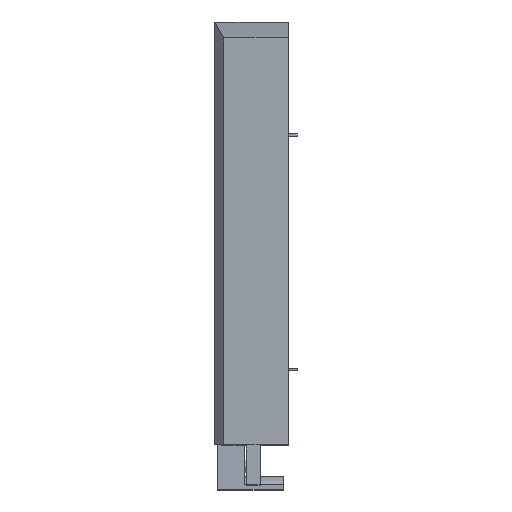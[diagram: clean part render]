
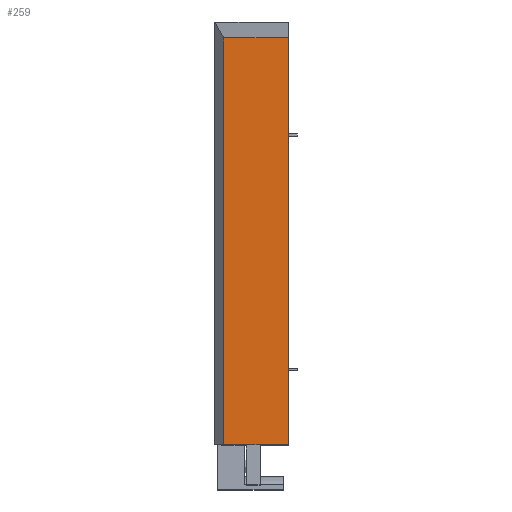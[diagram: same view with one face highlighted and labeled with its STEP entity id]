
A CAD part, top view. The second image highlights one B-rep face of the part: STEP entity #259.
In plain terms, the highlighted planar face has unit normal (0, 0, 1).
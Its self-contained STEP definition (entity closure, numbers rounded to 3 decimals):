
#82 = EDGE_CURVE ( 'NONE', #860, #1110, #753, .T. ) ;
#259 = ADVANCED_FACE ( 'NONE', ( #3959 ), #3242, .F. ) ;
#361 = ORIENTED_EDGE ( 'NONE', *, *, #4073, .F. ) ;
#383 = EDGE_LOOP ( 'NONE', ( #1447, #4022, #361, #3882 ) ) ;
#613 = DIRECTION ( 'NONE',  ( 1., 0., 0. ) ) ;
#753 = LINE ( 'NONE', #4069, #2305 ) ;
#860 = VERTEX_POINT ( 'NONE', #1571 ) ;
#910 = LINE ( 'NONE', #1906, #2178 ) ;
#972 = DIRECTION ( 'NONE',  ( 0., 1., 0. ) ) ;
#1045 = CARTESIAN_POINT ( 'NONE',  ( -35.35, -9.2, 23.136 ) ) ;
#1110 = VERTEX_POINT ( 'NONE', #3133 ) ;
#1271 = CARTESIAN_POINT ( 'NONE',  ( -40.35, -9.2, 23.136 ) ) ;
#1447 = ORIENTED_EDGE ( 'NONE', *, *, #2858, .T. ) ;
#1474 = CARTESIAN_POINT ( 'NONE',  ( -35.35, 213.029, 23.136 ) ) ;
#1571 = CARTESIAN_POINT ( 'NONE',  ( 0., 213.029, 23.136 ) ) ;
#1601 = DIRECTION ( 'NONE',  ( 0., 1., 0. ) ) ;
#1885 = AXIS2_PLACEMENT_3D ( 'NONE', #4219, #3635, #972 ) ;
#1906 = CARTESIAN_POINT ( 'NONE',  ( -35.35, 213.029, 23.136 ) ) ;
#2178 = VECTOR ( 'NONE', #1601, 1000. ) ;
#2232 = VERTEX_POINT ( 'NONE', #1474 ) ;
#2305 = VECTOR ( 'NONE', #2698, 1000. ) ;
#2424 = EDGE_CURVE ( 'NONE', #4200, #2232, #910, .T. ) ;
#2589 = DIRECTION ( 'NONE',  ( 1., 0., 0. ) ) ;
#2698 = DIRECTION ( 'NONE',  ( 0., -1., 0. ) ) ;
#2858 = EDGE_CURVE ( 'NONE', #4200, #1110, #4241, .T. ) ;
#2907 = LINE ( 'NONE', #3953, #3011 ) ;
#3011 = VECTOR ( 'NONE', #613, 1000. ) ;
#3133 = CARTESIAN_POINT ( 'NONE',  ( 0., -9.2, 23.136 ) ) ;
#3242 = PLANE ( 'NONE',  #1885 ) ;
#3555 = VECTOR ( 'NONE', #2589, 1000. ) ;
#3635 = DIRECTION ( 'NONE',  ( 0., 0., -1. ) ) ;
#3882 = ORIENTED_EDGE ( 'NONE', *, *, #2424, .F. ) ;
#3953 = CARTESIAN_POINT ( 'NONE',  ( -40.35, 213.029, 23.136 ) ) ;
#3959 = FACE_OUTER_BOUND ( 'NONE', #383, .T. ) ;
#4022 = ORIENTED_EDGE ( 'NONE', *, *, #82, .F. ) ;
#4069 = CARTESIAN_POINT ( 'NONE',  ( 0., 0., 23.136 ) ) ;
#4073 = EDGE_CURVE ( 'NONE', #2232, #860, #2907, .T. ) ;
#4200 = VERTEX_POINT ( 'NONE', #1045 ) ;
#4219 = CARTESIAN_POINT ( 'NONE',  ( -40.35, 0., 23.136 ) ) ;
#4241 = LINE ( 'NONE', #1271, #3555 ) ;
